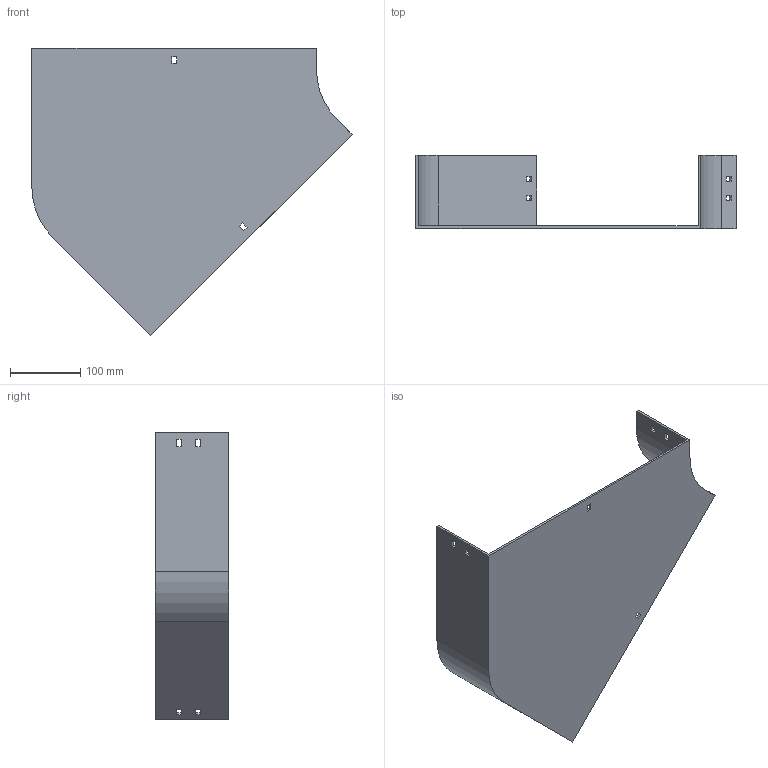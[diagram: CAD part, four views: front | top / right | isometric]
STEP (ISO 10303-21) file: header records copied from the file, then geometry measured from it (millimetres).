
FILE_DESCRIPTION (( 'STEP AP214' ), '1' );
FILE_NAME ('11F1D400.step', '2025-02-21T12:55:09', ( '' ), ( '' ), 'SwSTEP 2.0', 'SolidWorks 2023', '' );
FILE_SCHEMA (( 'AUTOMOTIVE_DESIGN' ));
Length unit declared in the file: millimetre
Products named in the file (1): 11F1D400
Bounding box: 454.5 x 104 x 407.6 mm (x, y, z)
Volume: 651420.1 mm3; surface area: 379785.3 mm2
Topology: 1 solids, 1 shells, 58 faces, 168 edges, 112 vertices
Faces by surface type: plane 54, cylinder 4
Entity records: 1943 total; most frequent: CARTESIAN_POINT 339, ORIENTED_EDGE 336, DIRECTION 294, EDGE_CURVE 168, VECTOR 160, LINE 160, VERTEX_POINT 112, EDGE_LOOP 78
